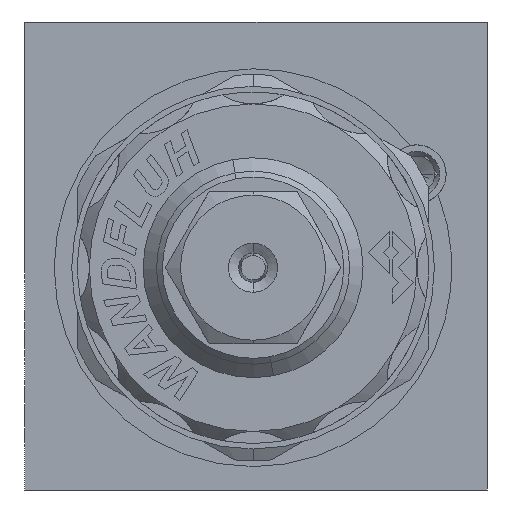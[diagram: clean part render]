
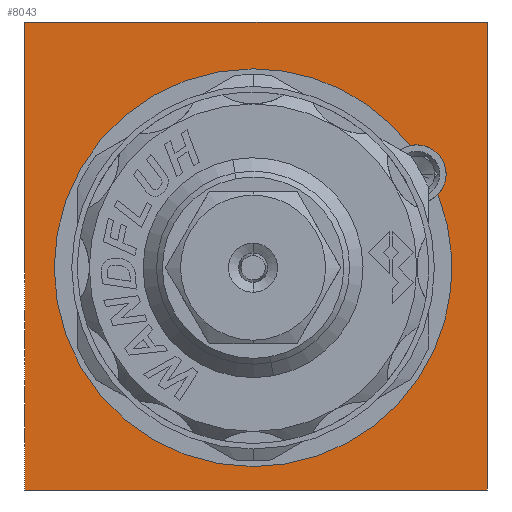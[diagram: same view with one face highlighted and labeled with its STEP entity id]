
A CAD part, left-side view. The second image highlights one B-rep face of the part: STEP entity #8043.
In plain terms, the highlighted planar face has unit normal (-1, 0, 0).
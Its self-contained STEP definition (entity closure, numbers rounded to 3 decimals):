
#146 = AXIS2_PLACEMENT_3D ( 'NONE', #12493, #13960, #8321 ) ;
#246 = EDGE_CURVE ( 'NONE', #17666, #4690, #14886, .T. ) ;
#280 = EDGE_CURVE ( 'NONE', #4717, #13506, #17466, .T. ) ;
#290 = VECTOR ( 'NONE', #13258, 1000. ) ;
#488 = CARTESIAN_POINT ( 'NONE',  ( 0., -15.552, 5.268 ) ) ;
#732 = VERTEX_POINT ( 'NONE', #7217 ) ;
#1018 = FACE_OUTER_BOUND ( 'NONE', #10545, .T. ) ;
#1061 = DIRECTION ( 'NONE',  ( -1., 0., 0. ) ) ;
#1092 = CARTESIAN_POINT ( 'NONE',  ( 0., -19.75, -20. ) ) ;
#1397 = ORIENTED_EDGE ( 'NONE', *, *, #11214, .F. ) ;
#1486 = ORIENTED_EDGE ( 'NONE', *, *, #14491, .F. ) ;
#1997 = CARTESIAN_POINT ( 'NONE',  ( 0., -19.75, 20. ) ) ;
#2360 = EDGE_CURVE ( 'NONE', #732, #9299, #5235, .T. ) ;
#3393 = ORIENTED_EDGE ( 'NONE', *, *, #7156, .F. ) ;
#3716 = EDGE_LOOP ( 'NONE', ( #4707, #11964, #15027, #3393, #9333 ) ) ;
#3743 = CIRCLE ( 'NONE', #10181, 17. ) ;
#4120 = DIRECTION ( 'NONE',  ( 1., 0., 0. ) ) ;
#4149 = LINE ( 'NONE', #15978, #290 ) ;
#4578 = DIRECTION ( 'NONE',  ( -1., 0., 0. ) ) ;
#4690 = VERTEX_POINT ( 'NONE', #488 ) ;
#4707 = ORIENTED_EDGE ( 'NONE', *, *, #15258, .F. ) ;
#4717 = VERTEX_POINT ( 'NONE', #1997 ) ;
#5235 = LINE ( 'NONE', #12954, #17300 ) ;
#5602 = EDGE_CURVE ( 'NONE', #15740, #17666, #3743, .T. ) ;
#6401 = CARTESIAN_POINT ( 'NONE',  ( 0., -13.173, 9.432 ) ) ;
#6760 = AXIS2_PLACEMENT_3D ( 'NONE', #13254, #4578, #14685 ) ;
#6805 = CIRCLE ( 'NONE', #6760, 2.5 ) ;
#7136 = ORIENTED_EDGE ( 'NONE', *, *, #2360, .F. ) ;
#7156 = EDGE_CURVE ( 'NONE', #17675, #15740, #14825, .T. ) ;
#7217 = CARTESIAN_POINT ( 'NONE',  ( 0., 19.75, -20. ) ) ;
#7786 = CARTESIAN_POINT ( 'NONE',  ( 0., -13.75, 7. ) ) ;
#7892 = AXIS2_PLACEMENT_3D ( 'NONE', #9726, #1061, #11192 ) ;
#8043 = ADVANCED_FACE ( 'NONE', ( #1018, #16435 ), #15611, .F. ) ;
#8321 = DIRECTION ( 'NONE',  ( 0., 0., 1. ) ) ;
#8711 = VECTOR ( 'NONE', #10690, 1000. ) ;
#9250 = DIRECTION ( 'NONE',  ( 0., 0., 1. ) ) ;
#9299 = VERTEX_POINT ( 'NONE', #9376 ) ;
#9333 = ORIENTED_EDGE ( 'NONE', *, *, #12813, .F. ) ;
#9376 = CARTESIAN_POINT ( 'NONE',  ( 0., 19.75, 20. ) ) ;
#9726 = CARTESIAN_POINT ( 'NONE',  ( 0., 0.25, -1. ) ) ;
#10181 = AXIS2_PLACEMENT_3D ( 'NONE', #17970, #17912, #17911 ) ;
#10545 = EDGE_LOOP ( 'NONE', ( #1486, #7136, #1397, #11494 ) ) ;
#10690 = DIRECTION ( 'NONE',  ( 0., 0., -1. ) ) ;
#11192 = DIRECTION ( 'NONE',  ( 0., 0., 1. ) ) ;
#11214 = EDGE_CURVE ( 'NONE', #13506, #732, #15943, .T. ) ;
#11494 = ORIENTED_EDGE ( 'NONE', *, *, #280, .F. ) ;
#11964 = ORIENTED_EDGE ( 'NONE', *, *, #246, .F. ) ;
#12244 = VERTEX_POINT ( 'NONE', #15265 ) ;
#12430 = CIRCLE ( 'NONE', #13034, 2.5 ) ;
#12493 = CARTESIAN_POINT ( 'NONE',  ( 0., 0.25, -1. ) ) ;
#12651 = DIRECTION ( 'NONE',  ( 0., 1., 0. ) ) ;
#12781 = CARTESIAN_POINT ( 'NONE',  ( 0., 19.75, 20. ) ) ;
#12813 = EDGE_CURVE ( 'NONE', #12244, #17675, #12430, .T. ) ;
#12954 = CARTESIAN_POINT ( 'NONE',  ( 0., 19.75, -20. ) ) ;
#13034 = AXIS2_PLACEMENT_3D ( 'NONE', #7786, #17993, #9250 ) ;
#13254 = CARTESIAN_POINT ( 'NONE',  ( 0., -13.75, 7. ) ) ;
#13258 = DIRECTION ( 'NONE',  ( 0., -1., 0. ) ) ;
#13506 = VERTEX_POINT ( 'NONE', #15225 ) ;
#13559 = CARTESIAN_POINT ( 'NONE',  ( 0., 0.25, 16. ) ) ;
#13960 = DIRECTION ( 'NONE',  ( -1., 0., 0. ) ) ;
#14245 = DIRECTION ( 'NONE',  ( 0., 0., -1. ) ) ;
#14491 = EDGE_CURVE ( 'NONE', #9299, #4717, #4149, .T. ) ;
#14685 = DIRECTION ( 'NONE',  ( 0., 0., 1. ) ) ;
#14825 = CIRCLE ( 'NONE', #7892, 17. ) ;
#14886 = CIRCLE ( 'NONE', #146, 17. ) ;
#15018 = CARTESIAN_POINT ( 'NONE',  ( 0., -19.75, -20. ) ) ;
#15027 = ORIENTED_EDGE ( 'NONE', *, *, #5602, .F. ) ;
#15065 = CARTESIAN_POINT ( 'NONE',  ( 0., 0.25, -18. ) ) ;
#15225 = CARTESIAN_POINT ( 'NONE',  ( 0., -19.75, -20. ) ) ;
#15258 = EDGE_CURVE ( 'NONE', #4690, #12244, #6805, .T. ) ;
#15265 = CARTESIAN_POINT ( 'NONE',  ( 0., -13.75, 9.5 ) ) ;
#15478 = VECTOR ( 'NONE', #12651, 1000. ) ;
#15611 = PLANE ( 'NONE',  #16962 ) ;
#15740 = VERTEX_POINT ( 'NONE', #13559 ) ;
#15943 = LINE ( 'NONE', #1092, #15478 ) ;
#15978 = CARTESIAN_POINT ( 'NONE',  ( 0., -19.75, 20. ) ) ;
#16435 = FACE_BOUND ( 'NONE', #3716, .T. ) ;
#16962 = AXIS2_PLACEMENT_3D ( 'NONE', #12781, #4120, #14245 ) ;
#17300 = VECTOR ( 'NONE', #18042, 1000. ) ;
#17466 = LINE ( 'NONE', #15018, #8711 ) ;
#17666 = VERTEX_POINT ( 'NONE', #15065 ) ;
#17675 = VERTEX_POINT ( 'NONE', #6401 ) ;
#17911 = DIRECTION ( 'NONE',  ( 0., 0., 1. ) ) ;
#17912 = DIRECTION ( 'NONE',  ( -1., 0., 0. ) ) ;
#17970 = CARTESIAN_POINT ( 'NONE',  ( 0., 0.25, -1. ) ) ;
#17993 = DIRECTION ( 'NONE',  ( -1., 0., 0. ) ) ;
#18042 = DIRECTION ( 'NONE',  ( 0., 0., 1. ) ) ;
